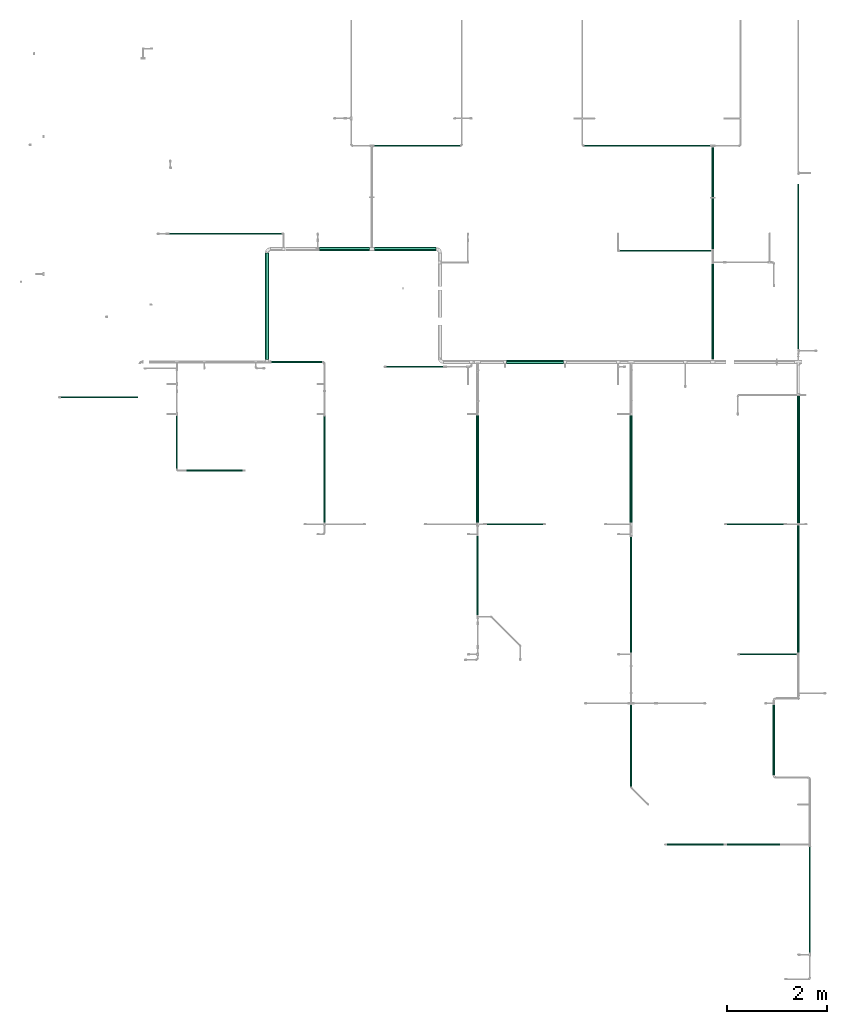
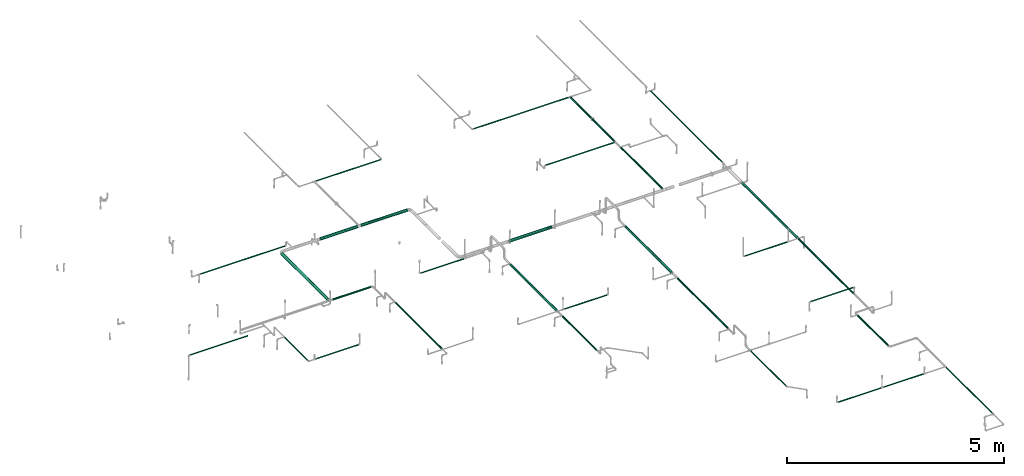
# One storey, part 1 of 157: 32 flow segments.
"""IFC2X3 building model written with IfcOpenShell, lengths in millimetres."""

from ifc_helpers import new_model, entity, si_unit, converted_unit, derived_unit, direction, frame, origin_with_axes, origin_2d_with_axis, place, context, subcontext, project, spatial, hollow_circle, extrude, source, transform, mapped, type_object, element, save


model = new_model("IFC2X3")

# Units and contexts
model_context = context("Model", 3, precision=0.01, world=frame((0.0, 4.29681676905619e-09, 0.0)), true_north=direction((4.01073788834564e-13, 1.0)))
plan_context = context("Plan", 3, precision=0.01, world=frame((0.0, 4.29681676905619e-09, 0.0)), true_north=direction((4.01073788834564e-13, 1.0)))
body_context = subcontext(model_context, "Body", "Model", "MODEL_VIEW")
ifc_project = project(units=[converted_unit("PLANEANGLEUNIT", "DEGREE", entity("IfcPositiveLengthMeasure", 0.0174532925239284), si_unit("PLANEANGLEUNIT", "RADIAN"), dimensions=[0, 0, 0, 0, 0, 0, 0]), si_unit("AREAUNIT", "SQUARE_METRE"), si_unit("LENGTHUNIT", "METRE", prefix="MILLI"), si_unit("MASSUNIT", "GRAM", prefix="KILO"), si_unit("POWERUNIT", "WATT"), si_unit("PRESSUREUNIT", "PASCAL"), si_unit("FORCEUNIT", "NEWTON", prefix="KILO"), si_unit("ELECTRICCURRENTUNIT", "AMPERE"), si_unit("THERMODYNAMICTEMPERATUREUNIT", "DEGREE_CELSIUS"), si_unit("TIMEUNIT", "SECOND"), si_unit("VOLUMEUNIT", "CUBIC_METRE"), derived_unit("LINEARVELOCITYUNIT", [(si_unit("LENGTHUNIT", "METRE"), 1), (si_unit("TIMEUNIT", "SECOND"), -1)]), derived_unit("VOLUMETRICFLOWRATEUNIT", [(si_unit("VOLUMEUNIT", "CUBIC_METRE"), 1), (si_unit("TIMEUNIT", "SECOND"), -1)]), derived_unit("THERMALTRANSMITTANCEUNIT", [(si_unit("POWERUNIT", "WATT"), 1), (si_unit("THERMODYNAMICTEMPERATUREUNIT", "KELVIN"), -1), (si_unit("AREAUNIT", "SQUARE_METRE"), -1)])], contexts=[model_context, plan_context])

# Site, building, storey
site_placement = place(None, frame((0.0, -4.29681676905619e-09, 0.0), z_axis=(0.0, 0.0, 1.0), x_axis=(1.0, 0.0, 0.0)))
site = spatial("IfcSite", under=ifc_project, at=site_placement, CompositionType="ELEMENT")
building_placement = place(site_placement, frame((0.0, 4.29681676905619e-09, 0.0), z_axis=(0.0, 0.0, 1.0), x_axis=(1.0, 0.0, 0.0)))
building = spatial("IfcBuilding", under=site, at=building_placement, Name="mc-building", CompositionType="ELEMENT")
storey_placement = place(building_placement, frame((0.0, 0.0, 204000.0), z_axis=(0.0, 0.0, 1.0), x_axis=(1.0, 0.0, 0.0)))
storey = spatial("IfcBuildingStorey", under=building, at=storey_placement, Name="Nivå D", CompositionType="ELEMENT", Elevation=204000.0)

# Flow segments
pipe_segment_type = type_object("IfcPipeSegmentType", Name="Stålrør normaltykke", PredefinedType="RIGIDSEGMENT")
shared_shape_1 = source(origin_with_axes(), body_context, "Body", "SweptSolid", [
    extrude(hollow_circle(Radius=16.9, WallThickness=2.0, at=origin_2d_with_axis()), frame((0.0, 0.0, 0.0), z_axis=(1.0, 0.0, 0.0), x_axis=(0.0, 1.0, 0.0)), (0.0, 0.0, 1.0), 1712.0),
])
flow_segment_1_placement = place(storey_placement, frame((522631.68905, 418357.40385, 2689.95572999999), z_axis=(0.0, 0.0, 1.0), x_axis=(1.0, 0.0, 0.0)))
element("IfcFlowSegment", 1, at=flow_segment_1_placement, inside=storey, type_object=pipe_segment_type, Name="Stålrør normaltykke", context=body_context, shape_type="MappedRepresentation", body=[
    mapped(shared_shape_1, transform((0.0, 0.0, 0.0), scale=1.0)),
])
shared_shape_2 = source(origin_with_axes(), body_context, "Body", "SweptSolid", [
    extrude(hollow_circle(Radius=16.9, WallThickness=2.0, at=origin_2d_with_axis()), frame((0.0, 0.0, 0.0), z_axis=(1.0, 0.0, 0.0), x_axis=(0.0, 1.0, 0.0)), (0.0, 0.0, 1.0), 2521.7),
])
flow_segment_2_placement = place(storey_placement, frame((526820.44533, 418356.83219, 2690.0), z_axis=(0.0, 0.0, 1.0), x_axis=(1.0, 0.0, 0.0)))
element("IfcFlowSegment", 2, at=flow_segment_2_placement, inside=storey, type_object=pipe_segment_type, Name="Stålrør normaltykke", context=body_context, shape_type="MappedRepresentation", body=[
    mapped(shared_shape_2, transform((0.0, 0.0, 0.0), scale=1.0)),
])
shared_shape_3 = source(origin_with_axes(), body_context, "Body", "SweptSolid", [
    extrude(hollow_circle(Radius=16.9, WallThickness=2.0, at=origin_2d_with_axis()), frame((0.0, 0.0, 0.0), z_axis=(1.0, 0.0, 0.0), x_axis=(0.0, 1.0, 0.0)), (0.0, 0.0, 1.0), 1133.0),
])
flow_segment_3_placement = place(storey_placement, frame((529933.8, 408200.0, 2896.95199999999), z_axis=(0.0, 0.0, 1.0), x_axis=(1.0, 0.0, 0.0)))
element("IfcFlowSegment", 3, at=flow_segment_3_placement, inside=storey, type_object=pipe_segment_type, Name="Stålrør normaltykke", context=body_context, shape_type="MappedRepresentation", body=[
    mapped(shared_shape_3, transform((0.0, 0.0, 0.0), scale=1.0)),
])
shared_shape_4 = source(origin_with_axes(), body_context, "Body", "SweptSolid", [
    extrude(hollow_circle(Radius=16.9, WallThickness=2.0, at=origin_2d_with_axis()), frame((0.0, 0.0, 0.0), z_axis=(1.0, 0.0, 0.0), x_axis=(0.0, 1.0, 0.0)), (0.0, 0.0, 1.0), 1062.0),
])
for number, where, z_axis, x_axis in (
    (4, (518685.97464, 412966.2, 2930.0), (0.0, 0.0, 1.0), (0.0, -1.0, 0.0)),
    (5, (529674.15, 404401.65, 2880.0), (0.0, 0.0, 1.0), (1.0, 0.0, 0.0)),
):
    element("IfcFlowSegment", number, at=place(storey_placement, frame(where, z_axis=z_axis, x_axis=x_axis)), inside=storey, type_object=pipe_segment_type, Name="Stålrør normaltykke", context=body_context, shape_type="MappedRepresentation", body=[
        mapped(shared_shape_4, transform((0.0, 0.0, 0.0), scale=1.0)),
    ])
shared_shape_5 = source(origin_with_axes(), body_context, "Body", "SweptSolid", [
    extrude(hollow_circle(Radius=24.1, WallThickness=2.0, at=origin_2d_with_axis()), frame((0.0, 0.0, 0.0), z_axis=(1.0, 0.0, 0.0), x_axis=(0.0, 1.0, 0.0)), (0.0, 0.0, 1.0), 1899.2),
])
flow_segment_4_placement = place(storey_placement, frame((529390.56587, 415995.7488, 2690.0), z_axis=(0.0, 0.0, 1.0), x_axis=(0.0, -1.0, 0.0)))
element("IfcFlowSegment", 6, at=flow_segment_4_placement, inside=storey, type_object=pipe_segment_type, Name="Stålrør normaltykke", context=body_context, shape_type="MappedRepresentation", body=[
    mapped(shared_shape_5, transform((0.0, 0.0, 0.0), scale=1.0)),
])
shared_shape_6 = source(origin_with_axes(), body_context, "Body", "SweptSolid", [
    extrude(hollow_circle(Radius=38.0, WallThickness=2.0, at=origin_2d_with_axis()), frame((0.0, 0.0, 0.0), z_axis=(1.0, 0.0, 0.0), x_axis=(0.0, 1.0, 0.0)), (0.0, 0.0, 1.0), 1232.5),
])
flow_segment_5_placement = place(storey_placement, frame((523864.15581, 416294.70476, 2690.0), z_axis=(0.0, 0.0, 1.0), x_axis=(-1.0, 0.0, 0.0)))
element("IfcFlowSegment", 7, at=flow_segment_5_placement, inside=storey, type_object=pipe_segment_type, Name="Stålrør normaltykke", context=body_context, shape_type="MappedRepresentation", body=[
    mapped(shared_shape_6, transform((0.0, 0.0, 0.0), scale=1.0)),
])
shared_shape_7 = source(origin_with_axes(), body_context, "Body", "SweptSolid", [
    extrude(hollow_circle(Radius=24.1, WallThickness=2.0, at=origin_2d_with_axis()), frame((0.0, 0.0, 0.0), z_axis=(1.0, 0.0, 0.0), x_axis=(0.0, 1.0, 0.0)), (0.0, 0.0, 1.0), 1000.0),
])
flow_segment_6_placement = place(storey_placement, frame((529390.56587, 418331.48219, 2690.0), z_axis=(0.0, 0.0, 1.0), x_axis=(0.0, -1.0, 0.0)))
element("IfcFlowSegment", 8, at=flow_segment_6_placement, inside=storey, type_object=pipe_segment_type, Name="Stålrør normaltykke", context=body_context, shape_type="MappedRepresentation", body=[
    mapped(shared_shape_7, transform((0.0, 0.0, 0.0), scale=1.0)),
])
shared_shape_8 = source(origin_with_axes(), body_context, "Body", "SweptSolid", [
    extrude(hollow_circle(Radius=16.9, WallThickness=2.0, at=origin_2d_with_axis()), frame((0.0, 0.0, 0.0), z_axis=(1.0, 0.0, 0.0), x_axis=(0.0, 1.0, 0.0)), (0.0, 0.0, 1.0), 1820.5),
])
flow_segment_7_placement = place(storey_placement, frame((529354.26587, 416260.00006, 2690.0), z_axis=(0.0, 0.0, 1.0), x_axis=(-1.0, 0.0, 0.0)))
element("IfcFlowSegment", 9, at=flow_segment_7_placement, inside=storey, type_object=pipe_segment_type, Name="Stålrør normaltykke", context=body_context, shape_type="MappedRepresentation", body=[
    mapped(shared_shape_8, transform((0.0, 0.0, 0.0), scale=1.0)),
])
shared_shape_9 = source(origin_with_axes(), body_context, "Body", "SweptSolid", [
    extrude(hollow_circle(Radius=24.1, WallThickness=2.0, at=origin_2d_with_axis()), frame((0.0, 0.0, 0.0), z_axis=(1.0, 0.0, 0.0), x_axis=(0.0, 1.0, 0.0)), (0.0, 0.0, 1.0), 1017.7),
])
flow_segment_8_placement = place(storey_placement, frame((529390.56587, 417311.48219, 2690.0), z_axis=(0.0, 0.0, 1.0), x_axis=(0.0, -1.0, 0.0)))
element("IfcFlowSegment", 10, at=flow_segment_8_placement, inside=storey, type_object=pipe_segment_type, Name="Stålrør normaltykke", context=body_context, shape_type="MappedRepresentation", body=[
    mapped(shared_shape_9, transform((0.0, 0.0, 0.0), scale=1.0)),
])
shared_shape_10 = source(origin_with_axes(), body_context, "Body", "SweptSolid", [
    extrude(hollow_circle(Radius=38.0, WallThickness=2.0, at=origin_2d_with_axis()), frame((0.0, 0.0, 0.0), z_axis=(1.0, 0.0, 0.0), x_axis=(0.0, 1.0, 0.0)), (0.0, 0.0, 1.0), 2133.9),
])
flow_segment_9_placement = place(storey_placement, frame((520485.24954, 416218.50476, 2690.0), z_axis=(0.0, 0.0, 1.0), x_axis=(0.0, -1.0, 0.0)))
element("IfcFlowSegment", 11, at=flow_segment_9_placement, inside=storey, type_object=pipe_segment_type, Name="Stålrør normaltykke", context=body_context, shape_type="MappedRepresentation", body=[
    mapped(shared_shape_10, transform((0.0, 0.0, 0.0), scale=1.0)),
])
shared_shape_11 = source(origin_with_axes(), body_context, "Body", "SweptSolid", [
    extrude(hollow_circle(Radius=38.0, WallThickness=2.0, at=origin_2d_with_axis()), frame((0.0, 0.0, 0.0), z_axis=(1.0, 0.0, 0.0), x_axis=(0.0, 1.0, 0.0)), (0.0, 0.0, 1.0), 1001.1),
])
flow_segment_10_placement = place(storey_placement, frame((522534.88905, 416294.70476, 2690.0), z_axis=(0.0, 0.0, 1.0), x_axis=(-1.0, 0.0, 0.0)))
element("IfcFlowSegment", 12, at=flow_segment_10_placement, inside=storey, type_object=pipe_segment_type, Name="Stålrør normaltykke", context=body_context, shape_type="MappedRepresentation", body=[
    mapped(shared_shape_11, transform((0.0, 0.0, 0.0), scale=1.0)),
])
shared_shape_12 = source(origin_with_axes(), body_context, "Body", "SweptSolid", [
    extrude(hollow_circle(Radius=16.9, WallThickness=2.0, at=origin_2d_with_axis()), frame((0.0, 0.0, 0.0), z_axis=(1.0, 0.0, 0.0), x_axis=(0.0, 1.0, 0.0)), (0.0, 0.0, 1.0), 2250.0),
])
flow_segment_11_placement = place(storey_placement, frame((518533.8, 416601.26648, 2570.0), z_axis=(0.0, 0.0, 1.0), x_axis=(1.0, 0.0, 0.0)))
element("IfcFlowSegment", 13, at=flow_segment_11_placement, inside=storey, type_object=pipe_segment_type, Name="Stålrør normaltykke", context=body_context, shape_type="MappedRepresentation", body=[
    mapped(shared_shape_12, transform((0.0, 0.0, 0.0), scale=1.0)),
])
shared_shape_13 = source(origin_with_axes(), body_context, "Body", "SweptSolid", [
    extrude(hollow_circle(Radius=24.1, WallThickness=2.0, at=origin_2d_with_axis()), frame((0.0, 0.0, 0.0), z_axis=(1.0, 0.0, 0.0), x_axis=(0.0, 1.0, 0.0)), (0.0, 0.0, 1.0), 1013.5),
])
flow_segment_12_placement = place(storey_placement, frame((520573.44954, 414039.35389, 2690.0), z_axis=(0.0, 0.0, 1.0), x_axis=(1.0, 0.0, 0.0)))
element("IfcFlowSegment", 14, at=flow_segment_12_placement, inside=storey, type_object=pipe_segment_type, Name="Stålrør normaltykke", context=body_context, shape_type="MappedRepresentation", body=[
    mapped(shared_shape_13, transform((0.0, 0.0, 0.0), scale=1.0)),
])
shared_shape_14 = source(origin_with_axes(), body_context, "Body", "SweptSolid", [
    extrude(hollow_circle(Radius=16.9, WallThickness=2.0, at=origin_2d_with_axis()), frame((0.0, 0.0, 0.0), z_axis=(1.0, 0.0, 0.0), x_axis=(0.0, 1.0, 0.0)), (0.0, 0.0, 1.0), 1132.4),
])
for number, where, z_axis, x_axis in (
    (15, (518874.15, 411870.36705, 2930.0), (0.0, 0.0, 1.0), (1.0, 0.0, 0.0)),
    (16, (526005.975, 410800.0, 2880.0), (0.0, 0.0, 1.0), (-1.0, 0.0, 0.0)),
    (17, (529606.55, 404401.65, 2880.0), (0.0, 0.0, 1.0), (-1.0, 0.0, 0.0)),
    (18, (530805.975, 410800.0, 2690.0), (0.0, 0.0, 1.0), (-1.0, 0.0, 0.0)),
):
    element("IfcFlowSegment", number, at=place(storey_placement, frame(where, z_axis=z_axis, x_axis=x_axis)), inside=storey, type_object=pipe_segment_type, Name="Stålrør normaltykke", context=body_context, shape_type="MappedRepresentation", body=[
        mapped(shared_shape_14, transform((0.0, 0.0, 0.0), scale=1.0, scale2=1.0, scale3=1.0, uniform=False)),
    ])
shared_shape_15 = source(origin_with_axes(), body_context, "Body", "SweptSolid", [
    extrude(hollow_circle(Radius=21.2, WallThickness=2.0, at=origin_2d_with_axis()), frame((0.0, 0.0, 0.0), z_axis=(1.0, 0.0, 0.0), x_axis=(0.0, 1.0, 0.0)), (0.0, 0.0, 1.0), 2126.4),
])
flow_segment_13_placement = place(storey_placement, frame((521635.35, 412960.2, 2880.0), z_axis=(0.0, 0.0, 1.0), x_axis=(0.0, -1.0, 0.0)))
element("IfcFlowSegment", 19, at=flow_segment_13_placement, inside=storey, type_object=pipe_segment_type, Name="Stålrør normaltykke", context=body_context, shape_type="MappedRepresentation", body=[
    mapped(shared_shape_15, transform((0.0, 0.0, 0.0), scale=1.0)),
])
shared_shape_16 = source(origin_with_axes(), body_context, "Body", "SweptSolid", [
    extrude(hollow_circle(Radius=16.9, WallThickness=2.0, at=origin_2d_with_axis()), frame((0.0, 0.0, 0.0), z_axis=(1.0, 0.0, 0.0), x_axis=(0.0, 1.0, 0.0)), (0.0, 0.0, 1.0), 1137.4),
])
flow_segment_14_placement = place(storey_placement, frame((522869.15, 413944.735, 2690.0), z_axis=(0.0, 0.0, 1.0), x_axis=(1.0, 0.0, 0.0)))
element("IfcFlowSegment", 20, at=flow_segment_14_placement, inside=storey, type_object=pipe_segment_type, Name="Stålrør normaltykke", context=body_context, shape_type="MappedRepresentation", body=[
    mapped(shared_shape_16, transform((0.0, 0.0, 0.0), scale=1.0)),
])
shared_shape_17 = source(origin_with_axes(), body_context, "Body", "SweptSolid", [
    extrude(hollow_circle(Radius=30.1, WallThickness=2.0, at=origin_2d_with_axis()), frame((0.0, 0.0, 0.0), z_axis=(1.0, 0.0, 0.0), x_axis=(0.0, 1.0, 0.0)), (0.0, 0.0, 1.0), 2132.4),
])
for number, where, z_axis, x_axis in (
    (21, (524695.35, 412966.2, 2880.0), (0.0, 0.0, 1.0), (0.0, -1.0, 0.0)),
    (22, (527758.2357, 412966.2, 2880.0), (0.0, 0.0, 1.0), (0.0, -1.0, 0.0)),
):
    element("IfcFlowSegment", number, at=place(storey_placement, frame(where, z_axis=z_axis, x_axis=x_axis)), inside=storey, type_object=pipe_segment_type, Name="Stålrør normaltykke", context=body_context, shape_type="MappedRepresentation", body=[
        mapped(shared_shape_17, transform((0.0, 0.0, 0.0), scale=1.0)),
    ])
shared_shape_18 = source(origin_with_axes(), body_context, "Body", "SweptSolid", [
    extrude(hollow_circle(Radius=38.0, WallThickness=2.0, at=origin_2d_with_axis()), frame((0.0, 0.0, 0.0), z_axis=(1.0, 0.0, 0.0), x_axis=(0.0, 1.0, 0.0)), (0.0, 0.0, 1.0), 1132.4),
])
flow_segment_15_placement = place(storey_placement, frame((525274.15, 414039.35389, 2690.0), z_axis=(0.0, 0.0, 1.0), x_axis=(1.0, 0.0, 0.0)))
element("IfcFlowSegment", 23, at=flow_segment_15_placement, inside=storey, type_object=pipe_segment_type, Name="Stålrør normaltykke", context=body_context, shape_type="MappedRepresentation", body=[
    mapped(shared_shape_18, transform((0.0, 0.0, 0.0), scale=1.0)),
])
shared_shape_19 = source(origin_with_axes(), body_context, "Body", "SweptSolid", [
    extrude(hollow_circle(Radius=21.2, WallThickness=2.0, at=origin_2d_with_axis()), frame((0.0, 0.0, 0.0), z_axis=(1.0, 0.0, 0.0), x_axis=(0.0, 1.0, 0.0)), (0.0, 0.0, 1.0), 1581.8),
])
flow_segment_16_placement = place(storey_placement, frame((524695.35, 410566.19999, 2880.0), z_axis=(0.0, 0.0, 1.0), x_axis=(0.0, -1.0, 0.0)))
element("IfcFlowSegment", 24, at=flow_segment_16_placement, inside=storey, type_object=pipe_segment_type, Name="Stålrør normaltykke", context=body_context, shape_type="MappedRepresentation", body=[
    mapped(shared_shape_19, transform((0.0, 0.0, 0.0), scale=1.0)),
])
shared_shape_20 = source(origin_with_axes(), body_context, "Body", "SweptSolid", [
    extrude(hollow_circle(Radius=16.9, WallThickness=2.0, at=origin_2d_with_axis()), frame((0.0, 0.0, 0.0), z_axis=(1.0, 0.0, 0.0), x_axis=(0.0, 1.0, 0.0)), (0.0, 0.0, 1.0), 1629.6),
])
flow_segment_17_placement = place(storey_placement, frame((527758.2357, 407185.35002, 2879.99994000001), z_axis=(0.0, 0.0, 1.0), x_axis=(0.0, -1.0, 0.0)))
element("IfcFlowSegment", 25, at=flow_segment_17_placement, inside=storey, type_object=pipe_segment_type, Name="Stålrør normaltykke", context=body_context, shape_type="MappedRepresentation", body=[
    mapped(shared_shape_20, transform((0.0, 0.0, 0.0), scale=1.0)),
])
shared_shape_21 = source(origin_with_axes(), body_context, "Body", "SweptSolid", [
    extrude(hollow_circle(Radius=24.1, WallThickness=2.0, at=origin_2d_with_axis()), frame((0.0, 0.0, 0.0), z_axis=(1.0, 0.0, 0.0), x_axis=(0.0, 1.0, 0.0)), (0.0, 0.0, 1.0), 2320.4),
])
flow_segment_18_placement = place(storey_placement, frame((527758.2357, 410554.2, 2880.0), z_axis=(0.0, 0.0, 1.0), x_axis=(0.0, -1.0, 0.0)))
element("IfcFlowSegment", 26, at=flow_segment_18_placement, inside=storey, type_object=pipe_segment_type, Name="Stålrør normaltykke", context=body_context, shape_type="MappedRepresentation", body=[
    mapped(shared_shape_21, transform((0.0, 0.0, 0.0), scale=1.0)),
])
shared_shape_22 = source(origin_with_axes(), body_context, "Body", "SweptSolid", [
    extrude(hollow_circle(Radius=16.9, WallThickness=2.0, at=origin_2d_with_axis()), frame((0.0, 0.0, 0.0), z_axis=(1.0, 0.0, 0.0), x_axis=(0.0, 1.0, 0.0)), (0.0, 0.0, 1.0), 2119.5),
])
flow_segment_19_placement = place(storey_placement, frame((531330.55939, 402233.8, 2880.0), z_axis=(0.0, 0.0, 1.0), x_axis=(0.0, 1.0, 0.0)))
element("IfcFlowSegment", 27, at=flow_segment_19_placement, inside=storey, type_object=pipe_segment_type, Name="Stålrør normaltykke", context=body_context, shape_type="MappedRepresentation", body=[
    mapped(shared_shape_22, transform((0.0, 0.0, 0.0), scale=1.0)),
])
shared_shape_23 = source(origin_with_axes(), body_context, "Body", "SweptSolid", [
    extrude(hollow_circle(Radius=24.1, WallThickness=2.0, at=origin_2d_with_axis()), frame((0.0, 0.0, 0.0), z_axis=(1.0, 0.0, 0.0), x_axis=(0.0, 1.0, 0.0)), (0.0, 0.0, 1.0), 1400.7),
])
flow_segment_20_placement = place(storey_placement, frame((530609.5, 405787.10215, 2880.0), z_axis=(0.0, 0.0, 1.0), x_axis=(0.0, 1.0, 0.0)))
element("IfcFlowSegment", 28, at=flow_segment_20_placement, inside=storey, type_object=pipe_segment_type, Name="Stålrør normaltykke", context=body_context, shape_type="MappedRepresentation", body=[
    mapped(shared_shape_23, transform((0.0, 0.0, 0.0), scale=1.0)),
])
shared_shape_24 = source(origin_with_axes(), body_context, "Body", "SweptSolid", [
    extrude(hollow_circle(Radius=24.1, WallThickness=2.0, at=origin_2d_with_axis()), frame((0.0, 0.0, 0.0), z_axis=(1.0, 0.0, 0.0), x_axis=(0.0, 1.0, 0.0)), (0.0, 0.0, 1.0), 2540.9),
])
flow_segment_21_placement = place(storey_placement, frame((531100.55939, 408233.8, 2690.0), z_axis=(0.0, 0.0, 1.0), x_axis=(0.0, 1.0, 0.0)))
element("IfcFlowSegment", 29, at=flow_segment_21_placement, inside=storey, type_object=pipe_segment_type, Name="Stålrør normaltykke", context=body_context, shape_type="MappedRepresentation", body=[
    mapped(shared_shape_24, transform((0.0, 0.0, 0.0), scale=1.0)),
])
shared_shape_25 = source(origin_with_axes(), body_context, "Body", "SweptSolid", [
    extrude(hollow_circle(Radius=30.1, WallThickness=2.0, at=origin_2d_with_axis()), frame((0.0, 0.0, 0.0), z_axis=(1.0, 0.0, 0.0), x_axis=(0.0, 1.0, 0.0)), (0.0, 0.0, 1.0), 2529.3),
])
flow_segment_22_placement = place(storey_placement, frame((531100.55939, 410825.35, 2690.0), z_axis=(0.0, 0.0, 1.0), x_axis=(0.0, 1.0, 0.0)))
element("IfcFlowSegment", 30, at=flow_segment_22_placement, inside=storey, type_object=pipe_segment_type, Name="Stålrør normaltykke", context=body_context, shape_type="MappedRepresentation", body=[
    mapped(shared_shape_25, transform((0.0, 0.0, 0.0), scale=1.0)),
])
shared_shape_26 = source(origin_with_axes(), body_context, "Body", "SweptSolid", [
    extrude(hollow_circle(Radius=16.9, WallThickness=2.0, at=origin_2d_with_axis()), frame((0.0, 0.0, 0.0), z_axis=(1.0, 0.0, 0.0), x_axis=(0.0, 1.0, 0.0)), (0.0, 0.0, 1.0), 3295.4),
])
flow_segment_23_placement = place(storey_placement, frame((531100.61546, 414296.65739, 2714.41294000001), z_axis=(0.0, 0.0, 1.0), x_axis=(0.0, 1.0, 0.0)))
element("IfcFlowSegment", 31, at=flow_segment_23_placement, inside=storey, type_object=pipe_segment_type, Name="Stålrør normaltykke", context=body_context, shape_type="MappedRepresentation", body=[
    mapped(shared_shape_26, transform((0.0, 0.0, 0.0), scale=1.0)),
])
shared_shape_27 = source(origin_with_axes(), body_context, "Body", "SweptSolid", [
    extrude(hollow_circle(Radius=16.9, WallThickness=2.0, at=origin_2d_with_axis()), frame((0.0, 0.0, 0.0), z_axis=(1.0, 0.0, 0.0), x_axis=(0.0, 1.0, 0.0)), (0.0, 0.0, 1.0), 1542.9),
])
flow_segment_24_placement = place(storey_placement, frame((517910.78934, 413334.05389, 3030.0), z_axis=(0.0, 0.0, 1.0), x_axis=(-1.0, 0.0, 0.0)))
element("IfcFlowSegment", 32, at=flow_segment_24_placement, inside=storey, type_object=pipe_segment_type, Name="Stålrør normaltykke", context=body_context, shape_type="MappedRepresentation", body=[
    mapped(shared_shape_27, transform((0.0, 0.0, 0.0), scale=1.0)),
])

save(model, "model.ifc")
